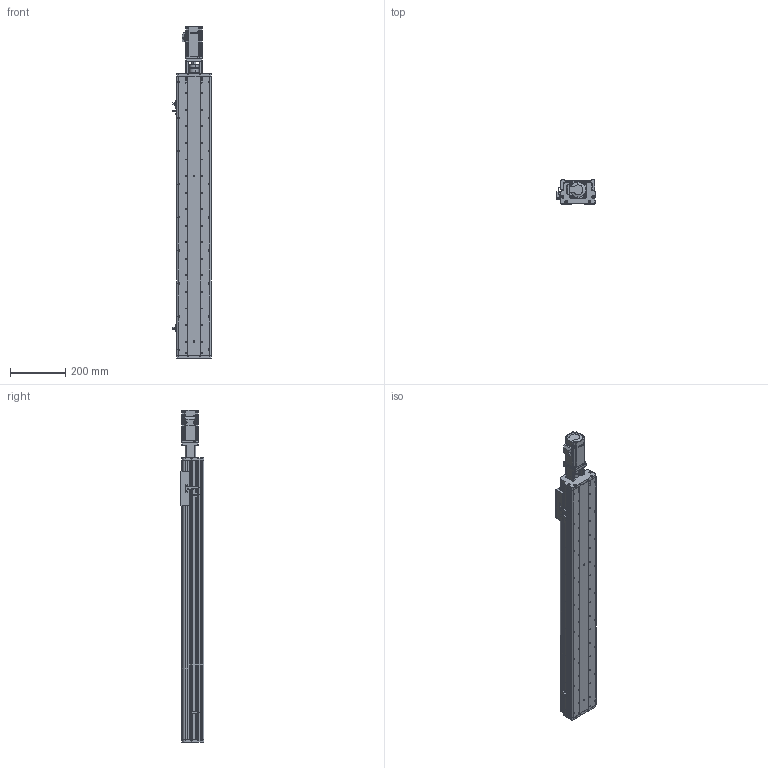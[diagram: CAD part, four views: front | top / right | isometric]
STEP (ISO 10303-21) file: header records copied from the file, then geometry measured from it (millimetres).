
FILE_DESCRIPTION (( 'STEP AP214' ), '1' );
FILE_NAME ('KSD125S-S800-MT-CM.STEP', '2017-08-07T06:47:43', ( '微软用户' ), ( '微软中国' ), 'SwSTEP 2.0', 'SolidWorks 2014', '' );
FILE_SCHEMA (( 'AUTOMOTIVE_DESIGN' ));
Length unit declared in the file: millimetre
Products named in the file (13): CS-34X32-10X14; 125-帣傷啣1; KSD125-賑雄釱1; KSD125S-S800-MT-CM; KSD125S-800俴最佪裝滅鳥裔; KSD125S-800俴最佪裝菁啣; MHMD042G1CA_2_03; 100遵鎮湛假蚾啣1 ; 拸萇儂釱滅袉菜; 覜茼え68遵圉猾敕; U倰嫖萇假蚾璃; U倰嫖萇EEㄜSX672; ヶ傷啣-125遵耀郪
Assembly tree (16 placements, depth 2):
  KSD125S-S800-MT-CM
    125-帣傷啣1
    CS-34X32-10X14
    ヶ傷啣-125遵耀郪
    U倰嫖萇EEㄜSX672  x3
    U倰嫖萇假蚾璃  x3
    覜茼え68遵圉猾敕
    拸萇儂釱滅袉菜
    100遵鎮湛假蚾啣1 
    MHMD042G1CA_2_03
    KSD125S-800俴最佪裝菁啣
    KSD125S-800俴最佪裝滅鳥裔
    KSD125-賑雄釱1
Bounding box: 138.7 x 86 x 1203.5 mm (x, y, z)
Volume: 3370358.7 mm3; surface area: 1111114 mm2
Topology: 15 solids, 18 shells, 1568 faces, 4526 edges, 2979 vertices
Faces by surface type: cylinder 810, plane 645, cone 91, bspline 22
Entity records: 55447 total; most frequent: CARTESIAN_POINT 11634, DIRECTION 7964, ORIENTED_EDGE 7560, EDGE_CURVE 3858, AXIS2_PLACEMENT_3D 2951, VERTEX_POINT 2571, LINE 2062, VECTOR 2062
